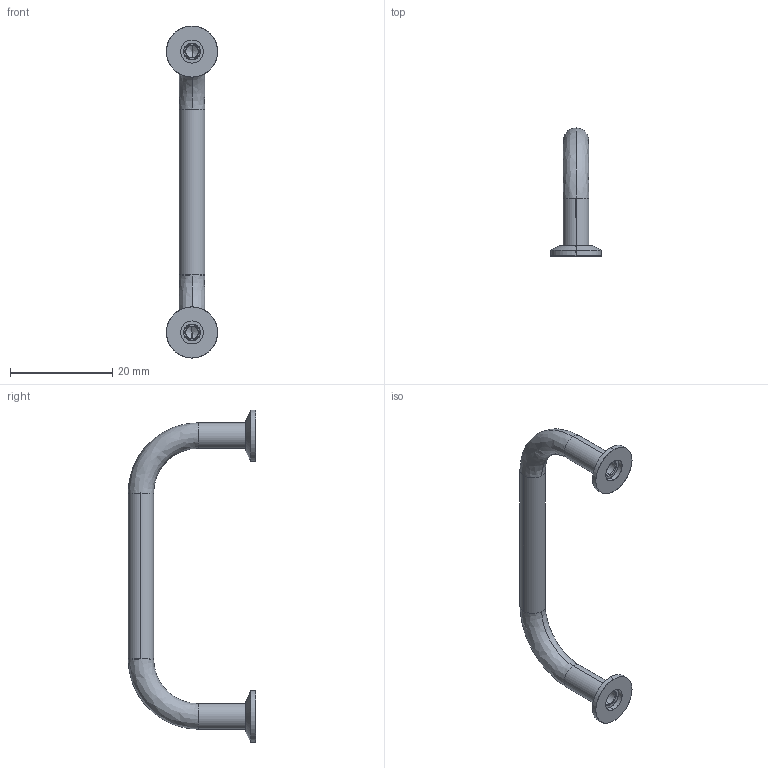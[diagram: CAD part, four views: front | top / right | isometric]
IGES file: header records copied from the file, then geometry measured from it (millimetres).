
Start section: SolidWorks IGES file using analytic representation for surfaces
Global section: file name: C:\Documents and Settings\IANO\Desktop\Temp File\Process pending\PCN pending\78700_v2\78700_v2_20170116_IGES\78700.W0005.igs; native system: SolidWorks 2009; preprocessor: SolidWorks 2009; author: IANO; date: 170310.095536; units: millimetre
Bounding box: 10 x 25 x 65 mm (x, y, z)
Surface area: 1912.5 mm2 (no closed solid volume)
Topology: 0 solids, 0 shells, 52 faces, 816 edges, 812 vertices
Faces by surface type: revolution 38, bspline 14
